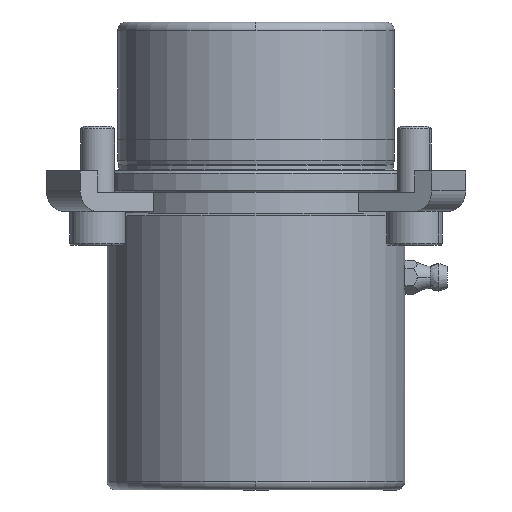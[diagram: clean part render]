
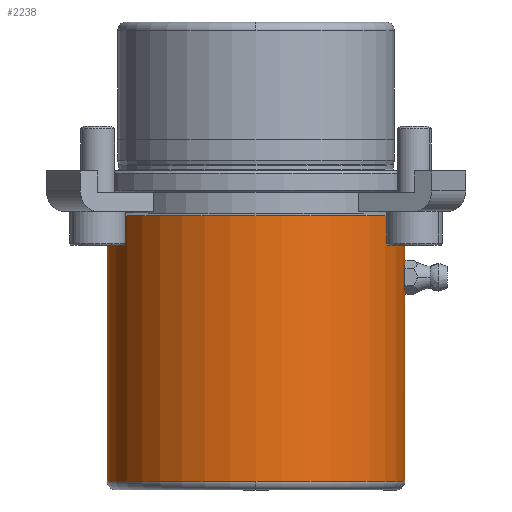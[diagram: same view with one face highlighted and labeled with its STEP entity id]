
A CAD part, front view. The second image highlights one B-rep face of the part: STEP entity #2238.
In plain terms, the highlighted cylindrical face has radius 35 mm (diameter 70 mm), a partial arc.
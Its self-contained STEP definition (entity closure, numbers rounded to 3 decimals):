
#604=CARTESIAN_POINT('',(0.,-35.,-73.));
#605=VERTEX_POINT('',#604);
#613=CARTESIAN_POINT('',(-35.0,0.,-73.0));
#614=VERTEX_POINT('',#613);
#615=CARTESIAN_POINT('',(0.0,0.,-73.0));
#616=DIRECTION('',(0.0,0.0,-1.0));
#617=DIRECTION('',(1.0,0.0,0.0));
#618=AXIS2_PLACEMENT_3D('',#615,#616,#617);
#619=CIRCLE('',#618,35.);
#620=EDGE_CURVE('',#605,#614,#619,.T.);
#637=CARTESIAN_POINT('',(35.,0.,-73.));
#638=VERTEX_POINT('',#637);
#639=CARTESIAN_POINT('',(35.0,0.,-27.5));
#640=VERTEX_POINT('',#639);
#641=CARTESIAN_POINT('',(35.,0.,-73.));
#642=DIRECTION('',(0.0,0.0,1.0));
#643=VECTOR('',#642,45.5);
#644=LINE('',#641,#643);
#645=EDGE_CURVE('',#638,#640,#644,.T.);
#655=CARTESIAN_POINT('',(-35.0,0.,-10.5));
#656=VERTEX_POINT('',#655);
#657=CARTESIAN_POINT('',(-35.0,0.,-73.0));
#658=DIRECTION('',(0.0,0.0,1.0));
#659=VECTOR('',#658,62.5);
#660=LINE('',#657,#659);
#661=EDGE_CURVE('',#614,#656,#660,.T.);
#663=CARTESIAN_POINT('',(35.0,0.,-10.5));
#664=VERTEX_POINT('',#663);
#672=CARTESIAN_POINT('',(35.0,0.,-22.5));
#673=VERTEX_POINT('',#672);
#674=CARTESIAN_POINT('',(35.0,0.,-22.5));
#675=DIRECTION('',(0.0,0.0,1.0));
#676=VECTOR('',#675,12.0);
#677=LINE('',#674,#676);
#678=EDGE_CURVE('',#673,#664,#677,.T.);
#1579=CARTESIAN_POINT('',(34.911,-2.5,-25.0));
#1580=VERTEX_POINT('',#1579);
#1581=CARTESIAN_POINT('',(34.911,-2.5,-25.0));
#1582=CARTESIAN_POINT('',(34.911,-2.5,-24.843));
#1583=CARTESIAN_POINT('',(34.912,-2.485,-24.681));
#1584=CARTESIAN_POINT('',(34.916,-2.422,-24.358));
#1585=CARTESIAN_POINT('',(34.919,-2.373,-24.197));
#1586=CARTESIAN_POINT('',(34.928,-2.246,-23.889));
#1587=CARTESIAN_POINT('',(34.933,-2.166,-23.742));
#1588=CARTESIAN_POINT('',(34.944,-1.983,-23.469));
#1589=CARTESIAN_POINT('',(34.95,-1.879,-23.343));
#1590=CARTESIAN_POINT('',(34.961,-1.657,-23.121));
#1591=CARTESIAN_POINT('',(34.967,-1.531,-23.017));
#1592=CARTESIAN_POINT('',(34.978,-1.258,-22.834));
#1593=CARTESIAN_POINT('',(34.983,-1.111,-22.754));
#1594=CARTESIAN_POINT('',(34.991,-0.803,-22.627));
#1595=CARTESIAN_POINT('',(34.994,-0.642,-22.578));
#1596=CARTESIAN_POINT('',(34.999,-0.319,-22.515));
#1597=CARTESIAN_POINT('',(35.0,-0.157,-22.5));
#1598=CARTESIAN_POINT('',(35.0,0.,-22.5));
#1599=B_SPLINE_CURVE_WITH_KNOTS('',3,(#1581,#1582,#1583,#1584,#1585,#1586,#1587,#1588,#1589,#1590,#1591,#1592,#1593,#1594,#1595,#1596,#1597,#1598),.UNSPECIFIED.,.F.,.U.,(4,2,2,2,2,2,2,2,4),(0.0,0.471,0.942,1.413,1.884,2.355,2.826,3.297,3.768),.UNSPECIFIED.);
#1600=EDGE_CURVE('',#1580,#673,#1599,.T.);
#1602=CARTESIAN_POINT('',(35.0,0.,-27.5));
#1603=CARTESIAN_POINT('',(35.0,-0.157,-27.5));
#1604=CARTESIAN_POINT('',(34.999,-0.319,-27.485));
#1605=CARTESIAN_POINT('',(34.994,-0.642,-27.422));
#1606=CARTESIAN_POINT('',(34.991,-0.803,-27.373));
#1607=CARTESIAN_POINT('',(34.983,-1.111,-27.246));
#1608=CARTESIAN_POINT('',(34.978,-1.258,-27.166));
#1609=CARTESIAN_POINT('',(34.967,-1.531,-26.983));
#1610=CARTESIAN_POINT('',(34.961,-1.657,-26.879));
#1611=CARTESIAN_POINT('',(34.95,-1.879,-26.657));
#1612=CARTESIAN_POINT('',(34.944,-1.983,-26.531));
#1613=CARTESIAN_POINT('',(34.933,-2.166,-26.258));
#1614=CARTESIAN_POINT('',(34.928,-2.246,-26.111));
#1615=CARTESIAN_POINT('',(34.919,-2.373,-25.803));
#1616=CARTESIAN_POINT('',(34.916,-2.422,-25.642));
#1617=CARTESIAN_POINT('',(34.912,-2.485,-25.319));
#1618=CARTESIAN_POINT('',(34.911,-2.5,-25.157));
#1619=CARTESIAN_POINT('',(34.911,-2.5,-25.0));
#1620=B_SPLINE_CURVE_WITH_KNOTS('',3,(#1602,#1603,#1604,#1605,#1606,#1607,#1608,#1609,#1610,#1611,#1612,#1613,#1614,#1615,#1616,#1617,#1618,#1619),.UNSPECIFIED.,.F.,.U.,(4,2,2,2,2,2,2,2,4),(11.305,11.776,12.247,12.718,13.189,13.66,14.131,14.602,15.073),.UNSPECIFIED.);
#1621=EDGE_CURVE('',#640,#1580,#1620,.T.);
#2207=CARTESIAN_POINT('',(0.0,0.,-10.5));
#2208=DIRECTION('',(0.0,0.0,-1.0));
#2209=DIRECTION('',(1.0,0.0,0.0));
#2210=AXIS2_PLACEMENT_3D('',#2207,#2208,#2209);
#2211=CIRCLE('',#2210,35.0);
#2212=EDGE_CURVE('',#664,#656,#2211,.T.);
#2217=CARTESIAN_POINT('',(0.0,0.,-41.75));
#2218=DIRECTION('',(0.0,0.,-1.0));
#2219=DIRECTION('',(1.0,0.0,0.0));
#2220=AXIS2_PLACEMENT_3D('',#2217,#2218,#2219);
#2221=CYLINDRICAL_SURFACE('',#2220,35.0);
#2222=ORIENTED_EDGE('',*,*,#645,.T.);
#2223=ORIENTED_EDGE('',*,*,#1621,.T.);
#2224=ORIENTED_EDGE('',*,*,#1600,.T.);
#2225=ORIENTED_EDGE('',*,*,#678,.T.);
#2226=ORIENTED_EDGE('',*,*,#2212,.T.);
#2227=ORIENTED_EDGE('',*,*,#661,.F.);
#2228=ORIENTED_EDGE('',*,*,#620,.F.);
#2229=CARTESIAN_POINT('',(0.0,0.,-73.0));
#2230=DIRECTION('',(0.0,0.0,-1.0));
#2231=DIRECTION('',(1.0,0.0,0.0));
#2232=AXIS2_PLACEMENT_3D('',#2229,#2230,#2231);
#2233=CIRCLE('',#2232,35.);
#2234=EDGE_CURVE('',#638,#605,#2233,.T.);
#2235=ORIENTED_EDGE('',*,*,#2234,.F.);
#2236=EDGE_LOOP('',(#2222,#2223,#2224,#2225,#2226,#2227,#2228,#2235));
#2237=FACE_OUTER_BOUND('',#2236,.T.);
#2238=ADVANCED_FACE('',(#2237),#2221,.T.);
